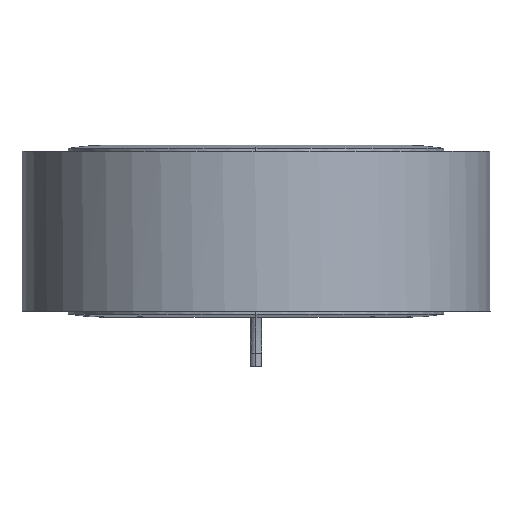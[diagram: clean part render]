
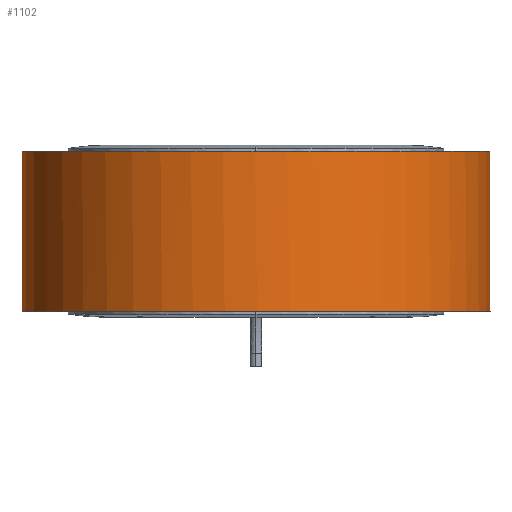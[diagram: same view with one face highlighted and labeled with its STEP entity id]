
A CAD part, front view. The second image highlights one B-rep face of the part: STEP entity #1102.
In plain terms, the highlighted free-form (B-spline) face has degree [11, 1] with [12, 2] control points.
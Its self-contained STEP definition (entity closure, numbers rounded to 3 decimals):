
#30 = B_SPLINE_SURFACE_WITH_KNOTS ( 'NONE', 11, 1, ( 
 ( #3494, #3241 ),
 ( #817, #1892 ),
 ( #2978, #1619 ),
 ( #1355, #2439 ),
 ( #1094, #2172 ),
 ( #835, #1910 ),
 ( #567, #2028 ),
 ( #3103, #1727 ),
 ( #883, #2276 ),
 ( #1958, #1406 ),
 ( #3067, #931 ),
 ( #3358, #2012 ) ),
 .UNSPECIFIED., .F., .F., .F.,
 ( 12, 12 ),
 ( 2, 2 ),
 ( -3.139, 3.139 ),
 ( 1.239, 44.191 ),
 .UNSPECIFIED. ) ;
#191 = EDGE_CURVE ( 'NONE', #2278, #3348, #2756, .T. ) ;
#215 = CARTESIAN_POINT ( 'NONE',  ( 73.54, -58.469, 20.65 ) ) ;
#312 = CARTESIAN_POINT ( 'NONE',  ( 5.5, 60.149, -20.65 ) ) ;
#554 = B_SPLINE_CURVE_WITH_KNOTS ( 'NONE', 11,
 ( #2685, #2665, #2433, #2647, #215, #832, #3511, #1089, #1310, #3468, #2148, #2725 ),
 .UNSPECIFIED., .F., .F.,
 ( 12, 12 ),
 ( 0., 0.366 ),
 .UNSPECIFIED. ) ;
#567 = CARTESIAN_POINT ( 'NONE',  ( -31.856, -96.999, 21.476 ) ) ;
#577 = CARTESIAN_POINT ( 'NONE',  ( -86.202, -8.8, -20.65 ) ) ;
#742 = EDGE_CURVE ( 'NONE', #788, #2278, #1967, .T. ) ;
#788 = VERTEX_POINT ( 'NONE', #2183 ) ;
#817 = CARTESIAN_POINT ( 'NONE',  ( 34.639, 60.303, 21.476 ) ) ;
#832 = CARTESIAN_POINT ( 'NONE',  ( 29.763, -94.512, 20.65 ) ) ;
#835 = CARTESIAN_POINT ( 'NONE',  ( 31.854, -97.228, 21.476 ) ) ;
#845 = CARTESIAN_POINT ( 'NONE',  ( 38.86, 57.098, -20.65 ) ) ;
#883 = CARTESIAN_POINT ( 'NONE',  ( -88.306, -4.77, 21.476 ) ) ;
#885 = ORIENTED_EDGE ( 'NONE', *, *, #2774, .T. ) ;
#924 = CARTESIAN_POINT ( 'NONE',  ( 5.5, 60.149, -20.65 ) ) ;
#931 = CARTESIAN_POINT ( 'NONE',  ( -34.639, 60.303, -21.476 ) ) ;
#1085 = CARTESIAN_POINT ( 'NONE',  ( -73.538, -58.573, -20.65 ) ) ;
#1089 = CARTESIAN_POINT ( 'NONE',  ( -73.538, -58.573, 20.65 ) ) ;
#1094 = CARTESIAN_POINT ( 'NONE',  ( 77.325, -57.616, 21.476 ) ) ;
#1102 = ADVANCED_FACE ( 'NONE', ( #2417 ), #30, .T. ) ;
#1118 = CARTESIAN_POINT ( 'NONE',  ( -5.5, 60.149, 20.65 ) ) ;
#1310 = CARTESIAN_POINT ( 'NONE',  ( -86.202, -8.8, 20.65 ) ) ;
#1350 = DIRECTION ( 'NONE',  ( 0., 0., -1. ) ) ;
#1355 = CARTESIAN_POINT ( 'NONE',  ( 88.305, -4.816, 21.476 ) ) ;
#1367 = CARTESIAN_POINT ( 'NONE',  ( -29.765, -94.34, -20.65 ) ) ;
#1381 = CARTESIAN_POINT ( 'NONE',  ( 86.201, -8.826, -20.65 ) ) ;
#1406 = CARTESIAN_POINT ( 'NONE',  ( -69.048, 38.568, -21.476 ) ) ;
#1576 = CARTESIAN_POINT ( 'NONE',  ( -5.5, 60.149, 0. ) ) ;
#1595 = LINE ( 'NONE', #1576, #2793 ) ;
#1607 = EDGE_LOOP ( 'NONE', ( #885, #3143, #1648, #2612 ) ) ;
#1619 = CARTESIAN_POINT ( 'NONE',  ( 69.048, 38.568, -21.476 ) ) ;
#1648 = ORIENTED_EDGE ( 'NONE', *, *, #191, .T. ) ;
#1667 = CARTESIAN_POINT ( 'NONE',  ( 70.359, 33.691, -20.65 ) ) ;
#1727 = CARTESIAN_POINT ( 'NONE',  ( -77.321, -57.761, -21.476 ) ) ;
#1872 = CARTESIAN_POINT ( 'NONE',  ( 5.5, 60.149, -20.65 ) ) ;
#1882 = CARTESIAN_POINT ( 'NONE',  ( -5.5, 60.149, -20.65 ) ) ;
#1892 = CARTESIAN_POINT ( 'NONE',  ( 34.639, 60.303, -21.476 ) ) ;
#1910 = CARTESIAN_POINT ( 'NONE',  ( 31.854, -97.228, -21.476 ) ) ;
#1958 = CARTESIAN_POINT ( 'NONE',  ( -69.048, 38.568, 21.476 ) ) ;
#1967 = B_SPLINE_CURVE_WITH_KNOTS ( 'NONE', 11,
 ( #1882, #2969, #2769, #577, #1085, #1367, #2504, #2165, #1381, #1667, #845, #312 ),
 .UNSPECIFIED., .F., .F.,
 ( 12, 12 ),
 ( 0., 0.366 ),
 .UNSPECIFIED. ) ;
#2012 = CARTESIAN_POINT ( 'NONE',  ( -0.169, 60.4, -21.476 ) ) ;
#2028 = CARTESIAN_POINT ( 'NONE',  ( -31.856, -96.999, -21.476 ) ) ;
#2148 = CARTESIAN_POINT ( 'NONE',  ( -38.86, 57.099, 20.65 ) ) ;
#2165 = CARTESIAN_POINT ( 'NONE',  ( 73.54, -58.469, -20.65 ) ) ;
#2172 = CARTESIAN_POINT ( 'NONE',  ( 77.325, -57.616, -21.476 ) ) ;
#2183 = CARTESIAN_POINT ( 'NONE',  ( -5.5, 60.149, -20.65 ) ) ;
#2276 = CARTESIAN_POINT ( 'NONE',  ( -88.306, -4.77, -21.476 ) ) ;
#2278 = VERTEX_POINT ( 'NONE', #1872 ) ;
#2417 = FACE_OUTER_BOUND ( 'NONE', #1607, .T. ) ;
#2433 = CARTESIAN_POINT ( 'NONE',  ( 70.359, 33.691, 20.65 ) ) ;
#2439 = CARTESIAN_POINT ( 'NONE',  ( 88.305, -4.816, -21.476 ) ) ;
#2467 = DIRECTION ( 'NONE',  ( 0., 0., 1. ) ) ;
#2504 = CARTESIAN_POINT ( 'NONE',  ( 29.763, -94.512, -20.65 ) ) ;
#2612 = ORIENTED_EDGE ( 'NONE', *, *, #2782, .T. ) ;
#2647 = CARTESIAN_POINT ( 'NONE',  ( 86.201, -8.826, 20.65 ) ) ;
#2665 = CARTESIAN_POINT ( 'NONE',  ( 38.86, 57.098, 20.65 ) ) ;
#2685 = CARTESIAN_POINT ( 'NONE',  ( 5.5, 60.149, 20.65 ) ) ;
#2725 = CARTESIAN_POINT ( 'NONE',  ( -5.5, 60.149, 20.65 ) ) ;
#2756 = LINE ( 'NONE', #924, #2847 ) ;
#2769 = CARTESIAN_POINT ( 'NONE',  ( -70.359, 33.695, -20.65 ) ) ;
#2774 = EDGE_CURVE ( 'NONE', #2999, #788, #1595, .T. ) ;
#2782 = EDGE_CURVE ( 'NONE', #3348, #2999, #554, .T. ) ;
#2793 = VECTOR ( 'NONE', #1350, 1000. ) ;
#2847 = VECTOR ( 'NONE', #2467, 1000. ) ;
#2969 = CARTESIAN_POINT ( 'NONE',  ( -38.86, 57.099, -20.65 ) ) ;
#2978 = CARTESIAN_POINT ( 'NONE',  ( 69.048, 38.568, 21.476 ) ) ;
#2999 = VERTEX_POINT ( 'NONE', #1118 ) ;
#3067 = CARTESIAN_POINT ( 'NONE',  ( -34.639, 60.303, 21.476 ) ) ;
#3103 = CARTESIAN_POINT ( 'NONE',  ( -77.321, -57.761, 21.476 ) ) ;
#3143 = ORIENTED_EDGE ( 'NONE', *, *, #742, .T. ) ;
#3241 = CARTESIAN_POINT ( 'NONE',  ( 0.169, 60.4, -21.476 ) ) ;
#3348 = VERTEX_POINT ( 'NONE', #3486 ) ;
#3358 = CARTESIAN_POINT ( 'NONE',  ( -0.169, 60.4, 21.476 ) ) ;
#3468 = CARTESIAN_POINT ( 'NONE',  ( -70.359, 33.695, 20.65 ) ) ;
#3486 = CARTESIAN_POINT ( 'NONE',  ( 5.5, 60.149, 20.65 ) ) ;
#3494 = CARTESIAN_POINT ( 'NONE',  ( 0.169, 60.4, 21.476 ) ) ;
#3511 = CARTESIAN_POINT ( 'NONE',  ( -29.765, -94.34, 20.65 ) ) ;
